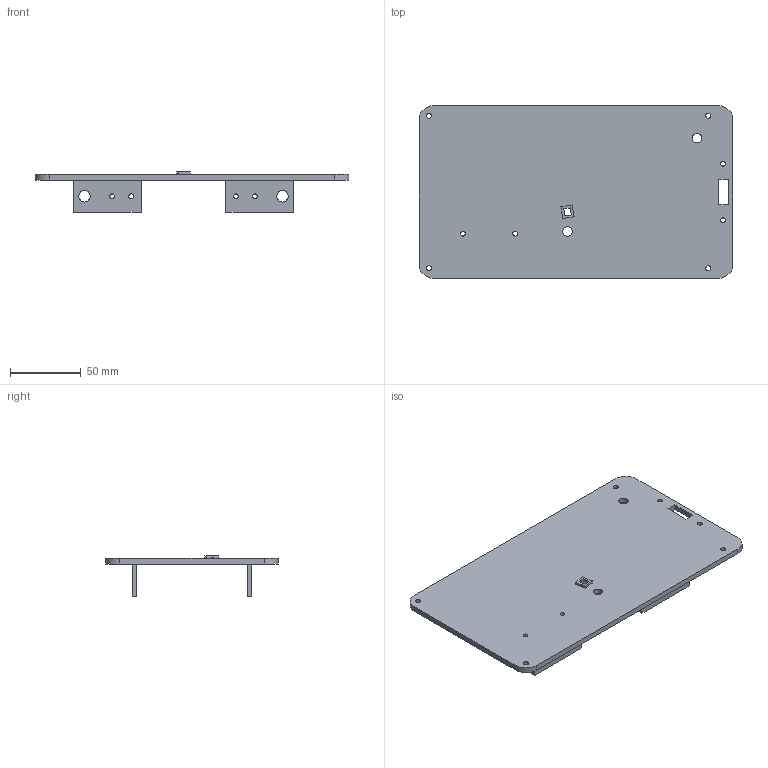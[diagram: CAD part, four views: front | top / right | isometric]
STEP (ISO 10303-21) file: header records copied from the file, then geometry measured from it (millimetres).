
FILE_DESCRIPTION(('Open CASCADE Model'),'2;1');
FILE_NAME('Open CASCADE Shape Model','2026-11-19T06:41:30',('Author'),( 'Open CASCADE'),'Open CASCADE STEP processor 8.0','Open CASCADE 8.0' ,'Unknown');
FILE_SCHEMA(('AUTOMOTIVE_DESIGN { 1 0 10303 214 1 1 1 1 }'));
Length unit declared in the file: millimetre
Products named in the file (1): Open CASCADE STEP translator 8.0 32
Bounding box: 222 x 122 x 28.55 mm (x, y, z)
Volume: 119103.9 mm3; surface area: 66266.2 mm2
Topology: 1 solids, 1 shells, 91 faces, 249 edges, 166 vertices
Faces by surface type: plane 64, cylinder 27
Full cylindrical faces by diameter (mm): 3.35 x12, 3.55 x4, 6.65 x3, 8.15 x4
Entity records: 6159 total; most frequent: CARTESIAN_POINT 1271, DIRECTION 840, ORIENTED_EDGE 498, PCURVE 498, DEFINITIONAL_REPRESENTATION 498, LINE 467, VECTOR 467, EDGE_CURVE 249
